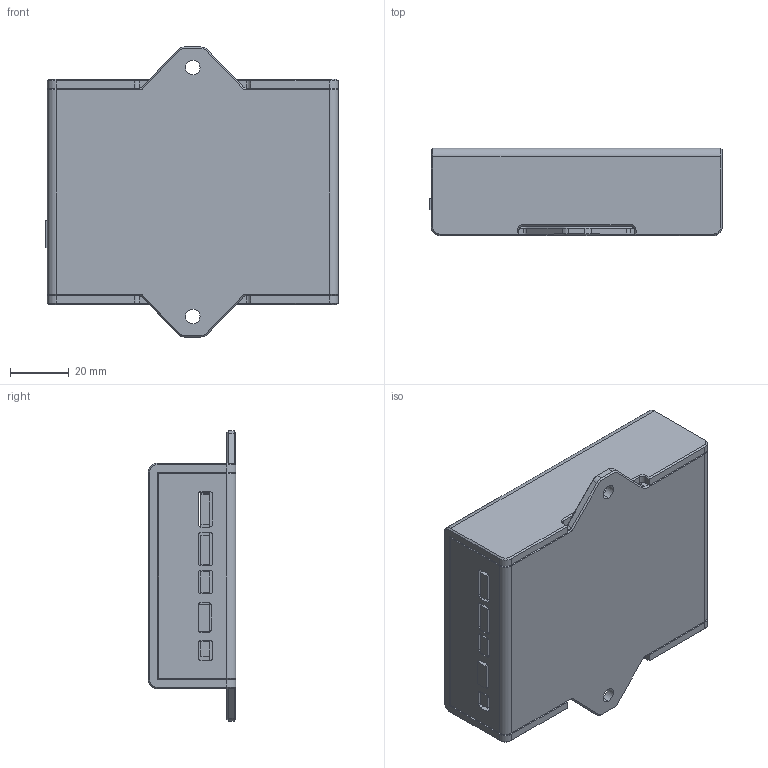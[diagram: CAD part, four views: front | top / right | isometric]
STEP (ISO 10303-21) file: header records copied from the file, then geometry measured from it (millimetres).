
FILE_DESCRIPTION (( 'STEP AP214' ), '1' );
FILE_NAME ('6878_500 2016-09-14.STEP', '2016-09-14T16:35:05', ( '' ), ( '' ), 'SwSTEP 2.0', 'SolidWorks 2015', '' );
FILE_SCHEMA (( 'AUTOMOTIVE_DESIGN' ));
Length unit declared in the file: millimetre
Products named in the file (6): 6878_500 2016-09-14; 6876_AB; 6876_AA; INS440135; CLPM50H050; Cust Board
Assembly tree (11 placements, depth 2):
  6878_500 2016-09-14
    Cust Board
    CLPM50H050  x4
    INS440135  x4
    6876_AA
    6876_AB
Bounding box: 99.24 x 29.7 x 98.47 mm (x, y, z)
Volume: 89767.3 mm3; surface area: 77596 mm2
Topology: 17 solids, 17 shells, 479 faces, 1172 edges, 750 vertices
Faces by surface type: plane 247, cylinder 188, cone 44
Entity records: 13190 total; most frequent: DIRECTION 2302, CARTESIAN_POINT 2208, ORIENTED_EDGE 2140, EDGE_CURVE 1070, AXIS2_PLACEMENT_3D 794, VECTOR 714, LINE 714, VERTEX_POINT 684
